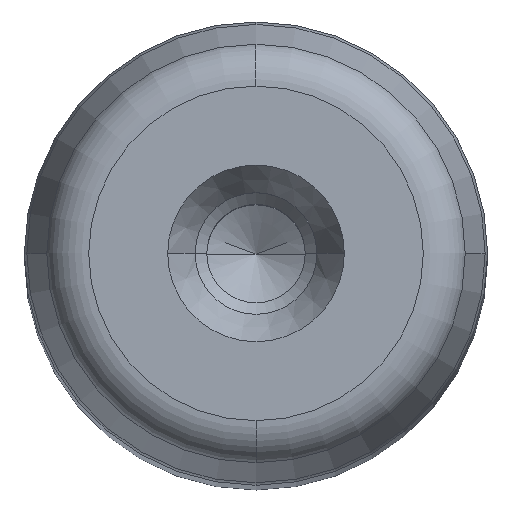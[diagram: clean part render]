
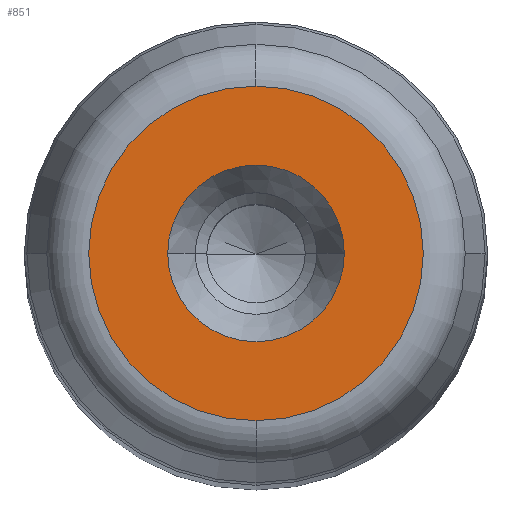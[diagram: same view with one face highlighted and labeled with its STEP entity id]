
A CAD part, top view. The second image highlights one B-rep face of the part: STEP entity #851.
In plain terms, the highlighted planar face has unit normal (0, 0, 1) as drawn and (0, 1, 0) by its records, which use the part's own axes.
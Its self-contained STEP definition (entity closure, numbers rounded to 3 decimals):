
#281=CARTESIAN_POINT('',(6.1,200.0,0.0));
#282=VERTEX_POINT('',#281);
#289=CARTESIAN_POINT('',(-6.1,200.0,0.));
#290=VERTEX_POINT('',#289);
#291=CARTESIAN_POINT('',(0.0,200.0,0.0));
#292=DIRECTION('',(0.0,1.0,0.0));
#293=DIRECTION('',(1.0,0.0,0.0));
#294=AXIS2_PLACEMENT_3D('',#291,#292,#293);
#295=CIRCLE('',#294,6.1);
#296=EDGE_CURVE('',#282,#290,#295,.T.);
#313=CARTESIAN_POINT('',(0.0,200.0,11.554));
#314=VERTEX_POINT('',#313);
#324=CARTESIAN_POINT('',(0.,200.0,-11.554));
#325=VERTEX_POINT('',#324);
#326=CARTESIAN_POINT('',(0.0,200.0,0.0));
#327=DIRECTION('',(0.0,1.0,0.0));
#328=DIRECTION('',(1.0,0.0,0.0));
#329=AXIS2_PLACEMENT_3D('',#326,#327,#328);
#330=CIRCLE('',#329,11.554);
#331=EDGE_CURVE('',#325,#314,#330,.T.);
#812=CARTESIAN_POINT('',(11.554,200.0,0.0));
#813=VERTEX_POINT('',#812);
#814=CARTESIAN_POINT('',(0.0,200.0,0.0));
#815=DIRECTION('',(0.0,1.0,0.0));
#816=DIRECTION('',(1.0,0.0,0.0));
#817=AXIS2_PLACEMENT_3D('',#814,#815,#816);
#818=CIRCLE('',#817,11.554);
#819=EDGE_CURVE('',#813,#325,#818,.T.);
#821=CARTESIAN_POINT('',(0.0,200.0,0.0));
#822=DIRECTION('',(0.0,1.0,0.0));
#823=DIRECTION('',(1.0,0.0,0.0));
#824=AXIS2_PLACEMENT_3D('',#821,#822,#823);
#825=CIRCLE('',#824,11.554);
#826=EDGE_CURVE('',#314,#813,#825,.T.);
#831=CARTESIAN_POINT('',(-12.71,200.0,-12.71));
#832=DIRECTION('',(0.0,1.0,0.0));
#833=DIRECTION('',(0.0,0.0,1.0));
#834=AXIS2_PLACEMENT_3D('',#831,#832,#833);
#835=PLANE('',#834);
#836=ORIENTED_EDGE('',*,*,#819,.T.);
#837=ORIENTED_EDGE('',*,*,#331,.T.);
#838=ORIENTED_EDGE('',*,*,#826,.T.);
#839=EDGE_LOOP('',(#836,#837,#838));
#840=FACE_OUTER_BOUND('',#839,.T.);
#841=ORIENTED_EDGE('',*,*,#296,.F.);
#842=CARTESIAN_POINT('',(0.0,200.0,0.0));
#843=DIRECTION('',(0.0,1.0,0.0));
#844=DIRECTION('',(1.0,0.0,0.0));
#845=AXIS2_PLACEMENT_3D('',#842,#843,#844);
#846=CIRCLE('',#845,6.1);
#847=EDGE_CURVE('',#290,#282,#846,.T.);
#848=ORIENTED_EDGE('',*,*,#847,.F.);
#849=EDGE_LOOP('',(#841,#848));
#850=FACE_BOUND('',#849,.T.);
#851=ADVANCED_FACE('',(#840,#850),#835,.T.);
